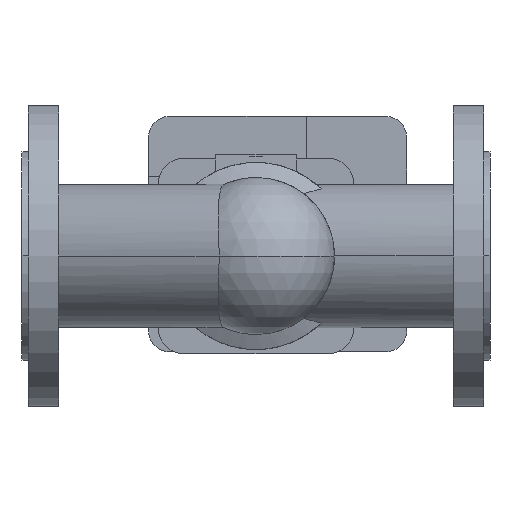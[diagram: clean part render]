
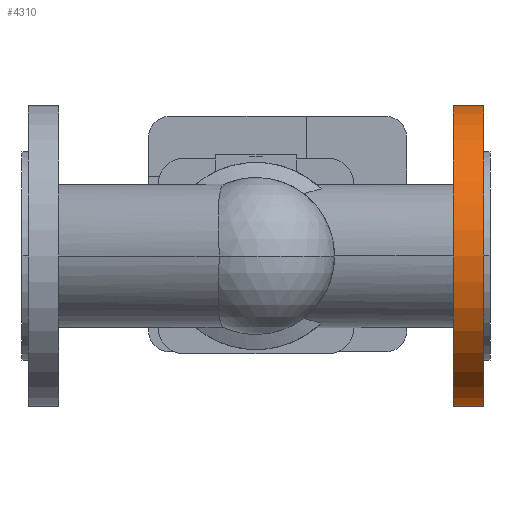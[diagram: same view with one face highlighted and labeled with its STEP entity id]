
A CAD part, front view. The second image highlights one B-rep face of the part: STEP entity #4310.
In plain terms, the highlighted cylindrical face has radius 100 mm (diameter 200 mm), a partial arc.
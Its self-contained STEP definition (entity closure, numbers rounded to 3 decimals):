
#3900=CARTESIAN_POINT('',(285.8,0.,0.));
#3910=DIRECTION('',(-1.,0.,0.));
#3920=DIRECTION('',(0.,0.,-1.));
#3930=AXIS2_PLACEMENT_3D('',#3900,#3910,#3920);
#3940=CYLINDRICAL_SURFACE('',#3930,100.);
#3950=CARTESIAN_POINT('',(285.8,0.,100.));
#3960=DIRECTION('',(-1.,0.,0.));
#3970=VECTOR('',#3960,1.);
#3980=LINE('',#3950,#3970);
#3990=CARTESIAN_POINT('',(305.8,0.,100.));
#4000=VERTEX_POINT('',#3990);
#4010=CARTESIAN_POINT('',(285.8,0.,100.));
#4020=VERTEX_POINT('',#4010);
#4030=EDGE_CURVE('',#4000,#4020,#3980,.T.);
#4040=ORIENTED_EDGE('',*,*,#4030,.T.);
#4050=CARTESIAN_POINT('',(305.8,0.,0.));
#4060=DIRECTION('',(-1.,0.,0.));
#4070=DIRECTION('',(0.,0.,-1.));
#4080=AXIS2_PLACEMENT_3D('',#4050,#4060,#4070);
#4090=CIRCLE('',#4080,100.);
#4100=CARTESIAN_POINT('',(305.8,0.,-100.));
#4110=VERTEX_POINT('',#4100);
#4120=EDGE_CURVE('',#4110,#4000,#4090,.T.);
#4130=ORIENTED_EDGE('',*,*,#4120,.T.);
#4140=CARTESIAN_POINT('',(285.8,0.,-100.));
#4150=DIRECTION('',(-1.,0.,0.));
#4160=VECTOR('',#4150,1.);
#4170=LINE('',#4140,#4160);
#4180=CARTESIAN_POINT('',(285.8,0.,-100.));
#4190=VERTEX_POINT('',#4180);
#4200=EDGE_CURVE('',#4110,#4190,#4170,.T.);
#4210=ORIENTED_EDGE('',*,*,#4200,.F.);
#4220=CARTESIAN_POINT('',(285.8,0.,0.));
#4230=DIRECTION('',(1.,0.,0.));
#4240=DIRECTION('',(0.,0.,-1.));
#4250=AXIS2_PLACEMENT_3D('',#4220,#4230,#4240);
#4260=CIRCLE('',#4250,100.);
#4270=EDGE_CURVE('',#4020,#4190,#4260,.T.);
#4280=ORIENTED_EDGE('',*,*,#4270,.T.);
#4290=EDGE_LOOP('',(#4280,#4210,#4130,#4040));
#4300=FACE_OUTER_BOUND('',#4290,.T.);
#4310=ADVANCED_FACE('',(#4300),#3940,.T.);
